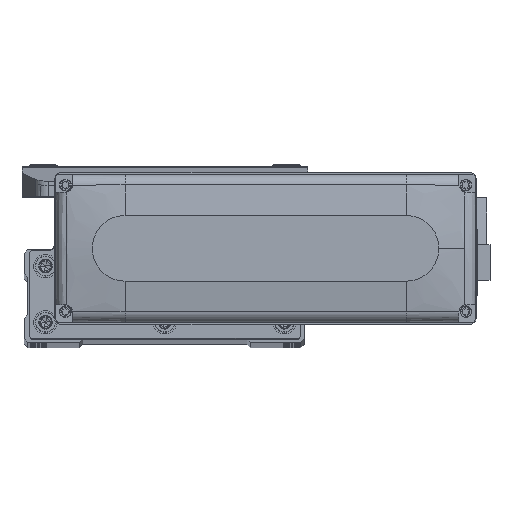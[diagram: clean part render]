
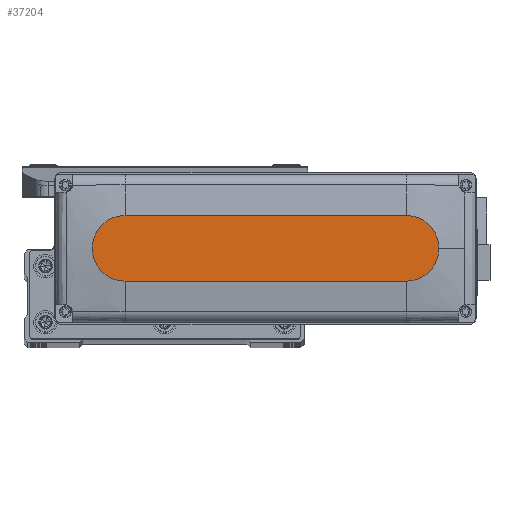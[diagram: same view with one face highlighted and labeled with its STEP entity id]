
A CAD part, top view. The second image highlights one B-rep face of the part: STEP entity #37204.
In plain terms, the highlighted planar face has unit normal (0, 0, 1).
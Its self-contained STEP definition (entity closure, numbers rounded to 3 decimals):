
#80 = VERTEX_POINT ( 'NONE', #16965 ) ;
#210 = CIRCLE ( 'NONE', #6619, 14. ) ;
#956 = DIRECTION ( 'NONE',  ( 1., 0., 0. ) ) ;
#2446 = DIRECTION ( 'NONE',  ( 1., 0., 0. ) ) ;
#3442 = EDGE_CURVE ( 'NONE', #37382, #41154, #21097, .T. ) ;
#3503 = VECTOR ( 'NONE', #2446, 1000. ) ;
#4908 = DIRECTION ( 'NONE',  ( 0., 0., 1. ) ) ;
#5028 = ORIENTED_EDGE ( 'NONE', *, *, #30253, .T. ) ;
#5069 = ORIENTED_EDGE ( 'NONE', *, *, #30292, .T. ) ;
#6619 = AXIS2_PLACEMENT_3D ( 'NONE', #19973, #35243, #956 ) ;
#6947 = CARTESIAN_POINT ( 'NONE',  ( -60., 14., 28.5 ) ) ;
#8396 = CARTESIAN_POINT ( 'NONE',  ( 0., 0., 28.5 ) ) ;
#10449 = CARTESIAN_POINT ( 'NONE',  ( -60., 14., 28.5 ) ) ;
#12064 = EDGE_CURVE ( 'NONE', #12240, #80, #19283, .T. ) ;
#12240 = VERTEX_POINT ( 'NONE', #6947 ) ;
#12771 = DIRECTION ( 'NONE',  ( 0., 0., 1. ) ) ;
#14015 = VERTEX_POINT ( 'NONE', #30152 ) ;
#15334 = AXIS2_PLACEMENT_3D ( 'NONE', #8396, #23660, #38926 ) ;
#16965 = CARTESIAN_POINT ( 'NONE',  ( -60., -14., 28.5 ) ) ;
#19283 = CIRCLE ( 'NONE', #47259, 14. ) ;
#19973 = CARTESIAN_POINT ( 'NONE',  ( 60., 0., 28.5 ) ) ;
#20167 = DIRECTION ( 'NONE',  ( 1., 0., 0. ) ) ;
#21097 = CIRCLE ( 'NONE', #49049, 14. ) ;
#21462 = LINE ( 'NONE', #36723, #3503 ) ;
#22691 = VECTOR ( 'NONE', #25715, 1000. ) ;
#23660 = DIRECTION ( 'NONE',  ( 0., 0., 1. ) ) ;
#25134 = ORIENTED_EDGE ( 'NONE', *, *, #12064, .T. ) ;
#25715 = DIRECTION ( 'NONE',  ( -1., 0., 0. ) ) ;
#27414 = FACE_OUTER_BOUND ( 'NONE', #39028, .T. ) ;
#28039 = DIRECTION ( 'NONE',  ( 1., 0., 0. ) ) ;
#30152 = CARTESIAN_POINT ( 'NONE',  ( 60., 14., 28.5 ) ) ;
#30253 = EDGE_CURVE ( 'NONE', #80, #37382, #21462, .T. ) ;
#30292 = EDGE_CURVE ( 'NONE', #14015, #12240, #44738, .T. ) ;
#31311 = ORIENTED_EDGE ( 'NONE', *, *, #3442, .T. ) ;
#35243 = DIRECTION ( 'NONE',  ( 0., 0., 1. ) ) ;
#35862 = CARTESIAN_POINT ( 'NONE',  ( 74., 0., 28.5 ) ) ;
#36723 = CARTESIAN_POINT ( 'NONE',  ( -60., -14., 28.5 ) ) ;
#37204 = ADVANCED_FACE ( 'NONE', ( #27414 ), #42680, .T. ) ;
#37382 = VERTEX_POINT ( 'NONE', #48151 ) ;
#37988 = EDGE_CURVE ( 'NONE', #41154, #14015, #210, .T. ) ;
#38926 = DIRECTION ( 'NONE',  ( 1., 0., 0. ) ) ;
#39028 = EDGE_LOOP ( 'NONE', ( #5069, #25134, #5028, #31311, #46398 ) ) ;
#39186 = CARTESIAN_POINT ( 'NONE',  ( 60., 0., 28.5 ) ) ;
#41154 = VERTEX_POINT ( 'NONE', #35862 ) ;
#42680 = PLANE ( 'NONE',  #15334 ) ;
#44738 = LINE ( 'NONE', #10449, #22691 ) ;
#46398 = ORIENTED_EDGE ( 'NONE', *, *, #37988, .T. ) ;
#47055 = CARTESIAN_POINT ( 'NONE',  ( -60., 0., 28.5 ) ) ;
#47259 = AXIS2_PLACEMENT_3D ( 'NONE', #47055, #12771, #28039 ) ;
#48151 = CARTESIAN_POINT ( 'NONE',  ( 60., -14., 28.5 ) ) ;
#49049 = AXIS2_PLACEMENT_3D ( 'NONE', #39186, #4908, #20167 ) ;
